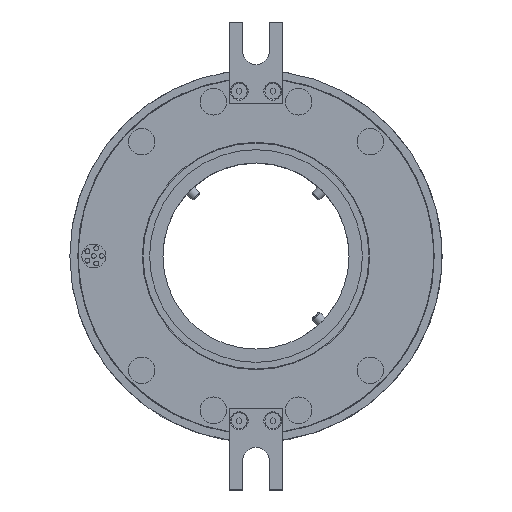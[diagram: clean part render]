
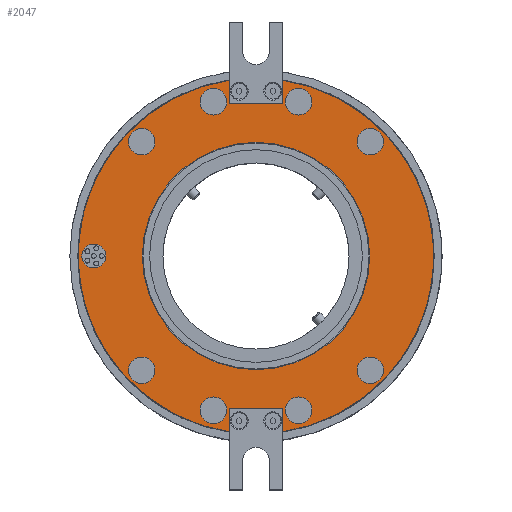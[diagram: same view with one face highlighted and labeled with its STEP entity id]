
A CAD part, top view. The second image highlights one B-rep face of the part: STEP entity #2047.
In plain terms, the highlighted planar face has unit normal (0, 0, 1).
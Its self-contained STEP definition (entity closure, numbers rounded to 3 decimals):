
#186=FACE_BOUND('',#5082,.T.);
#187=FACE_BOUND('',#5083,.T.);
#188=FACE_BOUND('',#5084,.T.);
#189=FACE_BOUND('',#5085,.T.);
#190=FACE_BOUND('',#5086,.T.);
#191=FACE_BOUND('',#5087,.T.);
#192=FACE_BOUND('',#5088,.T.);
#193=FACE_BOUND('',#5089,.T.);
#194=FACE_BOUND('',#5090,.T.);
#195=FACE_BOUND('',#5091,.T.);
#196=FACE_BOUND('',#5092,.T.);
#543=CIRCLE('',#17058,42.75);
#544=CIRCLE('',#17059,66.9);
#545=CIRCLE('',#17060,66.9);
#546=CIRCLE('',#17061,5.);
#547=CIRCLE('',#17062,5.);
#548=CIRCLE('',#17063,5.);
#549=CIRCLE('',#17064,5.);
#550=CIRCLE('',#17065,4.5);
#551=CIRCLE('',#17066,5.);
#552=CIRCLE('',#17067,5.);
#553=CIRCLE('',#17068,5.);
#554=CIRCLE('',#17069,5.);
#984=PLANE('',#17070);
#1267=LINE('',#31881,#3361);
#1268=LINE('',#31884,#3362);
#1269=LINE('',#31886,#3363);
#1270=LINE('',#31890,#3364);
#1271=LINE('',#31892,#3365);
#1272=LINE('',#31894,#3366);
#2047=ADVANCED_FACE('',(#186,#187,#188,#189,#190,#191,#192,#193,#194,#195,
#196),#984,.T.);
#3361=VECTOR('',#18664,1.);
#3362=VECTOR('',#18665,1.);
#3363=VECTOR('',#18666,1.);
#3364=VECTOR('',#18669,1.);
#3365=VECTOR('',#18670,1.);
#3366=VECTOR('',#18671,1.);
#5082=EDGE_LOOP('',(#7877));
#5083=EDGE_LOOP('',(#7878,#7879,#7880,#7881,#7882,#7883,#7884,#7885));
#5084=EDGE_LOOP('',(#7886));
#5085=EDGE_LOOP('',(#7887));
#5086=EDGE_LOOP('',(#7888));
#5087=EDGE_LOOP('',(#7889));
#5088=EDGE_LOOP('',(#7890));
#5089=EDGE_LOOP('',(#7891));
#5090=EDGE_LOOP('',(#7892));
#5091=EDGE_LOOP('',(#7893));
#5092=EDGE_LOOP('',(#7894));
#7877=ORIENTED_EDGE('',*,*,#13759,.F.);
#7878=ORIENTED_EDGE('',*,*,#13760,.F.);
#7879=ORIENTED_EDGE('',*,*,#13761,.F.);
#7880=ORIENTED_EDGE('',*,*,#13762,.F.);
#7881=ORIENTED_EDGE('',*,*,#13763,.F.);
#7882=ORIENTED_EDGE('',*,*,#13764,.F.);
#7883=ORIENTED_EDGE('',*,*,#13765,.F.);
#7884=ORIENTED_EDGE('',*,*,#13766,.F.);
#7885=ORIENTED_EDGE('',*,*,#13767,.F.);
#7886=ORIENTED_EDGE('',*,*,#13768,.T.);
#7887=ORIENTED_EDGE('',*,*,#13769,.T.);
#7888=ORIENTED_EDGE('',*,*,#13770,.T.);
#7889=ORIENTED_EDGE('',*,*,#13771,.T.);
#7890=ORIENTED_EDGE('',*,*,#13772,.T.);
#7891=ORIENTED_EDGE('',*,*,#13773,.T.);
#7892=ORIENTED_EDGE('',*,*,#13774,.T.);
#7893=ORIENTED_EDGE('',*,*,#13775,.T.);
#7894=ORIENTED_EDGE('',*,*,#13776,.T.);
#11567=VERTEX_POINT('',#31880);
#11568=VERTEX_POINT('',#31882);
#11569=VERTEX_POINT('',#31883);
#11570=VERTEX_POINT('',#31885);
#11571=VERTEX_POINT('',#31887);
#11572=VERTEX_POINT('',#31889);
#11573=VERTEX_POINT('',#31891);
#11574=VERTEX_POINT('',#31893);
#11575=VERTEX_POINT('',#31895);
#11576=VERTEX_POINT('',#31898);
#11577=VERTEX_POINT('',#31900);
#11578=VERTEX_POINT('',#31902);
#11579=VERTEX_POINT('',#31904);
#11580=VERTEX_POINT('',#31906);
#11581=VERTEX_POINT('',#31908);
#11582=VERTEX_POINT('',#31910);
#11583=VERTEX_POINT('',#31912);
#11584=VERTEX_POINT('',#31914);
#13759=EDGE_CURVE('',#11567,#11567,#543,.T.);
#13760=EDGE_CURVE('',#11568,#11569,#1267,.T.);
#13761=EDGE_CURVE('',#11570,#11568,#1268,.T.);
#13762=EDGE_CURVE('',#11571,#11570,#1269,.T.);
#13763=EDGE_CURVE('',#11572,#11571,#544,.T.);
#13764=EDGE_CURVE('',#11573,#11572,#1270,.T.);
#13765=EDGE_CURVE('',#11574,#11573,#1271,.T.);
#13766=EDGE_CURVE('',#11575,#11574,#1272,.T.);
#13767=EDGE_CURVE('',#11569,#11575,#545,.T.);
#13768=EDGE_CURVE('',#11576,#11576,#546,.T.);
#13769=EDGE_CURVE('',#11577,#11577,#547,.T.);
#13770=EDGE_CURVE('',#11578,#11578,#548,.T.);
#13771=EDGE_CURVE('',#11579,#11579,#549,.T.);
#13772=EDGE_CURVE('',#11580,#11580,#550,.T.);
#13773=EDGE_CURVE('',#11581,#11581,#551,.T.);
#13774=EDGE_CURVE('',#11582,#11582,#552,.T.);
#13775=EDGE_CURVE('',#11583,#11583,#553,.T.);
#13776=EDGE_CURVE('',#11584,#11584,#554,.T.);
#17058=AXIS2_PLACEMENT_3D('',#31879,#18662,#18663);
#17059=AXIS2_PLACEMENT_3D('',#31888,#18667,#18668);
#17060=AXIS2_PLACEMENT_3D('',#31896,#18672,#18673);
#17061=AXIS2_PLACEMENT_3D('',#31897,#18674,#18675);
#17062=AXIS2_PLACEMENT_3D('',#31899,#18676,#18677);
#17063=AXIS2_PLACEMENT_3D('',#31901,#18678,#18679);
#17064=AXIS2_PLACEMENT_3D('',#31903,#18680,#18681);
#17065=AXIS2_PLACEMENT_3D('',#31905,#18682,#18683);
#17066=AXIS2_PLACEMENT_3D('',#31907,#18684,#18685);
#17067=AXIS2_PLACEMENT_3D('',#31909,#18686,#18687);
#17068=AXIS2_PLACEMENT_3D('',#31911,#18688,#18689);
#17069=AXIS2_PLACEMENT_3D('',#31913,#18690,#18691);
#17070=AXIS2_PLACEMENT_3D('',#31915,#18692,#18693);
#18662=DIRECTION('',(0.,0.,1.));
#18663=DIRECTION('',(1.,0.,0.));
#18664=DIRECTION('',(0.,-1.,0.));
#18665=DIRECTION('',(-1.,0.,0.));
#18666=DIRECTION('',(0.,1.,0.));
#18667=DIRECTION('',(0.,0.,-1.));
#18668=DIRECTION('',(1.,0.,0.));
#18669=DIRECTION('',(0.,1.,0.));
#18670=DIRECTION('',(1.,0.,0.));
#18671=DIRECTION('',(0.,-1.,0.));
#18672=DIRECTION('',(0.,0.,-1.));
#18673=DIRECTION('',(1.,0.,0.));
#18674=DIRECTION('',(0.,0.,-1.));
#18675=DIRECTION('',(-1.,0.,0.));
#18676=DIRECTION('',(0.,0.,-1.));
#18677=DIRECTION('',(-1.,0.,0.));
#18678=DIRECTION('',(0.,0.,-1.));
#18679=DIRECTION('',(-1.,0.,0.));
#18680=DIRECTION('',(0.,0.,-1.));
#18681=DIRECTION('',(-1.,0.,0.));
#18682=DIRECTION('',(0.,0.,-1.));
#18683=DIRECTION('',(1.,0.,0.));
#18684=DIRECTION('',(0.,0.,-1.));
#18685=DIRECTION('',(-1.,0.,0.));
#18686=DIRECTION('',(0.,0.,-1.));
#18687=DIRECTION('',(-1.,0.,0.));
#18688=DIRECTION('',(0.,0.,-1.));
#18689=DIRECTION('',(-1.,0.,0.));
#18690=DIRECTION('',(0.,0.,-1.));
#18691=DIRECTION('',(-1.,0.,0.));
#18692=DIRECTION('',(0.,0.,1.));
#18693=DIRECTION('',(1.,0.,0.));
#31879=CARTESIAN_POINT('',(0.,0.,66.5));
#31880=CARTESIAN_POINT('',(42.75,0.,66.5));
#31881=CARTESIAN_POINT('',(-10.,-72.75,66.5));
#31882=CARTESIAN_POINT('',(-10.,-57.5,66.5));
#31883=CARTESIAN_POINT('',(-10.,-66.148,66.5));
#31884=CARTESIAN_POINT('',(0.,-57.5,66.5));
#31885=CARTESIAN_POINT('',(10.,-57.5,66.5));
#31886=CARTESIAN_POINT('',(10.,-72.75,66.5));
#31887=CARTESIAN_POINT('',(10.,-66.148,66.5));
#31888=CARTESIAN_POINT('',(0.,0.,66.5));
#31889=CARTESIAN_POINT('',(10.,66.148,66.5));
#31890=CARTESIAN_POINT('',(10.,72.75,66.5));
#31891=CARTESIAN_POINT('',(10.,57.5,66.5));
#31892=CARTESIAN_POINT('',(0.,57.5,66.5));
#31893=CARTESIAN_POINT('',(-10.,57.5,66.5));
#31894=CARTESIAN_POINT('',(-10.,72.75,66.5));
#31895=CARTESIAN_POINT('',(-10.,66.148,66.5));
#31896=CARTESIAN_POINT('',(0.,0.,66.5));
#31897=CARTESIAN_POINT('',(43.,-43.,66.5));
#31898=CARTESIAN_POINT('',(38.,-43.,66.5));
#31899=CARTESIAN_POINT('',(16.,-58.,66.5));
#31900=CARTESIAN_POINT('',(11.,-58.,66.5));
#31901=CARTESIAN_POINT('',(-16.,-58.,66.5));
#31902=CARTESIAN_POINT('',(-21.,-58.,66.5));
#31903=CARTESIAN_POINT('',(-43.,-43.,66.5));
#31904=CARTESIAN_POINT('',(-48.,-43.,66.5));
#31905=CARTESIAN_POINT('',(-61.,0.,66.5));
#31906=CARTESIAN_POINT('',(-56.5,0.,66.5));
#31907=CARTESIAN_POINT('',(-43.,43.,66.5));
#31908=CARTESIAN_POINT('',(-48.,43.,66.5));
#31909=CARTESIAN_POINT('',(43.,43.,66.5));
#31910=CARTESIAN_POINT('',(38.,43.,66.5));
#31911=CARTESIAN_POINT('',(16.,58.,66.5));
#31912=CARTESIAN_POINT('',(11.,58.,66.5));
#31913=CARTESIAN_POINT('',(-16.,58.,66.5));
#31914=CARTESIAN_POINT('',(-21.,58.,66.5));
#31915=CARTESIAN_POINT('',(0.,0.,66.5));
